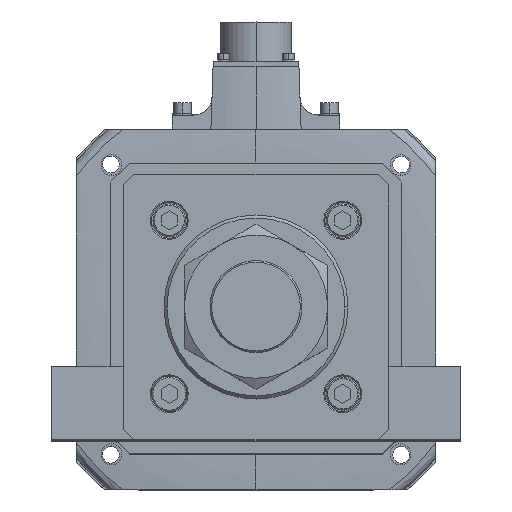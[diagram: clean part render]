
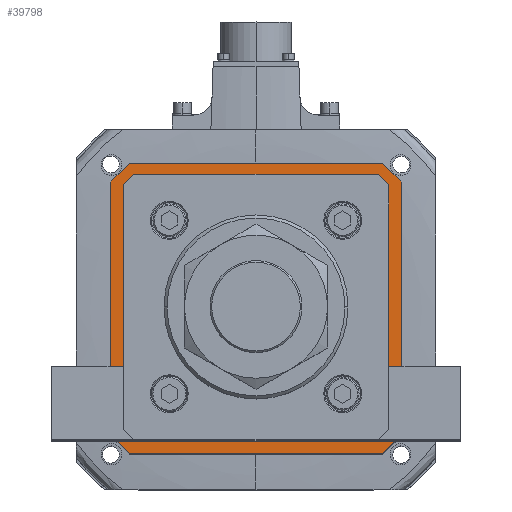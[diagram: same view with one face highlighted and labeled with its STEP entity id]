
A CAD part, top view. The second image highlights one B-rep face of the part: STEP entity #39798.
In plain terms, the highlighted planar face has unit normal (0, 0, 1).
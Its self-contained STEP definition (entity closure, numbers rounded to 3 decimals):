
#1254 = LINE ( 'NONE', #19892, #17965 ) ;
#2408 = EDGE_CURVE ( 'NONE', #38904, #3585, #27895, .T. ) ;
#2716 = VERTEX_POINT ( 'NONE', #4660 ) ;
#2806 = LINE ( 'NONE', #12912, #33525 ) ;
#2861 = ORIENTED_EDGE ( 'NONE', *, *, #2408, .F. ) ;
#3007 = VECTOR ( 'NONE', #44918, 1000. ) ;
#3055 = VERTEX_POINT ( 'NONE', #29881 ) ;
#3069 = DIRECTION ( 'NONE',  ( 0., -1., 0. ) ) ;
#3585 = VERTEX_POINT ( 'NONE', #34812 ) ;
#3739 = VERTEX_POINT ( 'NONE', #32338 ) ;
#4301 = VERTEX_POINT ( 'NONE', #16769 ) ;
#4510 = VECTOR ( 'NONE', #35580, 1000. ) ;
#4660 = CARTESIAN_POINT ( 'NONE',  ( -63., 58.793, -142. ) ) ;
#5102 = LINE ( 'NONE', #23473, #51852 ) ;
#5230 = ORIENTED_EDGE ( 'NONE', *, *, #44930, .F. ) ;
#5682 = LINE ( 'NONE', #14910, #3007 ) ;
#6749 = CARTESIAN_POINT ( 'NONE',  ( 0., 0., -142. ) ) ;
#6956 = CARTESIAN_POINT ( 'NONE',  ( 62., -71., -142. ) ) ;
#7081 = CARTESIAN_POINT ( 'NONE',  ( -62., 71., -142. ) ) ;
#7243 = CARTESIAN_POINT ( 'NONE',  ( 62., -71., -142. ) ) ;
#7448 = EDGE_CURVE ( 'NONE', #25381, #19169, #1254, .T. ) ;
#7671 = ORIENTED_EDGE ( 'NONE', *, *, #9470, .T. ) ;
#8519 = VECTOR ( 'NONE', #36508, 1000. ) ;
#9470 = EDGE_CURVE ( 'NONE', #3055, #39816, #19126, .T. ) ;
#10632 = VERTEX_POINT ( 'NONE', #14787 ) ;
#10765 = VECTOR ( 'NONE', #33969, 1000. ) ;
#11247 = PLANE ( 'NONE',  #41649 ) ;
#11968 = VECTOR ( 'NONE', #41768, 1000. ) ;
#12912 = CARTESIAN_POINT ( 'NONE',  ( -63., 0., -142. ) ) ;
#13697 = VERTEX_POINT ( 'NONE', #7081 ) ;
#13767 = VECTOR ( 'NONE', #22675, 1000. ) ;
#14787 = CARTESIAN_POINT ( 'NONE',  ( 62., 71., -142. ) ) ;
#14800 = CARTESIAN_POINT ( 'NONE',  ( 58.793, -63., -142. ) ) ;
#14910 = CARTESIAN_POINT ( 'NONE',  ( -62., 71., -142. ) ) ;
#15061 = LINE ( 'NONE', #39853, #23688 ) ;
#15078 = ORIENTED_EDGE ( 'NONE', *, *, #48703, .F. ) ;
#15135 = DIRECTION ( 'NONE',  ( 0., 1., 0. ) ) ;
#15359 = DIRECTION ( 'NONE',  ( 0., 0., 1. ) ) ;
#15437 = ORIENTED_EDGE ( 'NONE', *, *, #7448, .T. ) ;
#15617 = LINE ( 'NONE', #47141, #35004 ) ;
#15788 = CARTESIAN_POINT ( 'NONE',  ( 71., -62., -142. ) ) ;
#16203 = ORIENTED_EDGE ( 'NONE', *, *, #37807, .T. ) ;
#16769 = CARTESIAN_POINT ( 'NONE',  ( -58.793, 63., -142. ) ) ;
#16784 = FACE_BOUND ( 'NONE', #29510, .T. ) ;
#16900 = ORIENTED_EDGE ( 'NONE', *, *, #32967, .F. ) ;
#17514 = EDGE_CURVE ( 'NONE', #40955, #32206, #51794, .T. ) ;
#17965 = VECTOR ( 'NONE', #24193, 1000. ) ;
#18042 = ORIENTED_EDGE ( 'NONE', *, *, #50678, .T. ) ;
#18417 = CARTESIAN_POINT ( 'NONE',  ( 60.896, 60.896, -142. ) ) ;
#18450 = CARTESIAN_POINT ( 'NONE',  ( -62., -71., -142. ) ) ;
#18598 = LINE ( 'NONE', #7243, #11968 ) ;
#18990 = ORIENTED_EDGE ( 'NONE', *, *, #50269, .F. ) ;
#19012 = CARTESIAN_POINT ( 'NONE',  ( -63., -58.793, -142. ) ) ;
#19126 = LINE ( 'NONE', #35054, #8519 ) ;
#19169 = VERTEX_POINT ( 'NONE', #19012 ) ;
#19202 = CARTESIAN_POINT ( 'NONE',  ( 63., 58.793, -142. ) ) ;
#19435 = FACE_OUTER_BOUND ( 'NONE', #46936, .T. ) ;
#19892 = CARTESIAN_POINT ( 'NONE',  ( -60.896, -60.896, -142. ) ) ;
#20415 = VERTEX_POINT ( 'NONE', #6956 ) ;
#20627 = LINE ( 'NONE', #53620, #47363 ) ;
#21918 = DIRECTION ( 'NONE',  ( -1., 0., 0. ) ) ;
#22675 = DIRECTION ( 'NONE',  ( 0.707, -0.707, 0. ) ) ;
#23473 = CARTESIAN_POINT ( 'NONE',  ( -71., 62., -142. ) ) ;
#23688 = VECTOR ( 'NONE', #40019, 1000. ) ;
#23907 = DIRECTION ( 'NONE',  ( 1., 0., 0. ) ) ;
#24193 = DIRECTION ( 'NONE',  ( -0.707, 0.707, 0. ) ) ;
#24894 = ORIENTED_EDGE ( 'NONE', *, *, #46066, .F. ) ;
#25180 = EDGE_CURVE ( 'NONE', #32206, #3055, #48345, .T. ) ;
#25351 = ORIENTED_EDGE ( 'NONE', *, *, #36174, .T. ) ;
#25381 = VERTEX_POINT ( 'NONE', #49258 ) ;
#27199 = VECTOR ( 'NONE', #52551, 1000. ) ;
#27572 = CARTESIAN_POINT ( 'NONE',  ( 71., -62., -142. ) ) ;
#27895 = LINE ( 'NONE', #34343, #4510 ) ;
#28241 = CARTESIAN_POINT ( 'NONE',  ( 71., 62., -142. ) ) ;
#28641 = EDGE_CURVE ( 'NONE', #13697, #10632, #41419, .T. ) ;
#29268 = ORIENTED_EDGE ( 'NONE', *, *, #49862, .T. ) ;
#29510 = EDGE_LOOP ( 'NONE', ( #44142, #7671, #16203, #15437, #25351, #18042, #29268, #48313 ) ) ;
#29881 = CARTESIAN_POINT ( 'NONE',  ( 63., -58.793, -142. ) ) ;
#30078 = ORIENTED_EDGE ( 'NONE', *, *, #28641, .F. ) ;
#30590 = DIRECTION ( 'NONE',  ( 0., -1., 0. ) ) ;
#32206 = VERTEX_POINT ( 'NONE', #19202 ) ;
#32338 = CARTESIAN_POINT ( 'NONE',  ( -71., 62., -142. ) ) ;
#32593 = LINE ( 'NONE', #52366, #27199 ) ;
#32967 = EDGE_CURVE ( 'NONE', #3585, #3739, #5102, .T. ) ;
#33525 = VECTOR ( 'NONE', #42716, 1000. ) ;
#33969 = DIRECTION ( 'NONE',  ( 1., 0., 0. ) ) ;
#34149 = VECTOR ( 'NONE', #39759, 1000. ) ;
#34343 = CARTESIAN_POINT ( 'NONE',  ( -62., -71., -142. ) ) ;
#34812 = CARTESIAN_POINT ( 'NONE',  ( -71., -62., -142. ) ) ;
#34915 = VERTEX_POINT ( 'NONE', #42158 ) ;
#35004 = VECTOR ( 'NONE', #21918, 1000. ) ;
#35054 = CARTESIAN_POINT ( 'NONE',  ( 60.896, -60.896, -142. ) ) ;
#35073 = CARTESIAN_POINT ( 'NONE',  ( 63., 0., -142. ) ) ;
#35580 = DIRECTION ( 'NONE',  ( -0.707, 0.707, 0. ) ) ;
#36174 = EDGE_CURVE ( 'NONE', #19169, #2716, #2806, .T. ) ;
#36508 = DIRECTION ( 'NONE',  ( -0.707, -0.707, 0. ) ) ;
#36697 = LINE ( 'NONE', #28241, #52721 ) ;
#37807 = EDGE_CURVE ( 'NONE', #39816, #25381, #15617, .T. ) ;
#38617 = CARTESIAN_POINT ( 'NONE',  ( 62., 71., -142. ) ) ;
#38904 = VERTEX_POINT ( 'NONE', #18450 ) ;
#39759 = DIRECTION ( 'NONE',  ( -0.707, -0.707, 0. ) ) ;
#39798 = ADVANCED_FACE ( 'NONE', ( #16784, #19435 ), #11247, .T. ) ;
#39816 = VERTEX_POINT ( 'NONE', #14800 ) ;
#39853 = CARTESIAN_POINT ( 'NONE',  ( 71., 62., -142. ) ) ;
#40019 = DIRECTION ( 'NONE',  ( 0.707, -0.707, 0. ) ) ;
#40955 = VERTEX_POINT ( 'NONE', #49772 ) ;
#41419 = LINE ( 'NONE', #38617, #10765 ) ;
#41638 = EDGE_CURVE ( 'NONE', #34915, #43471, #36697, .T. ) ;
#41649 = AXIS2_PLACEMENT_3D ( 'NONE', #6749, #15359, #23907 ) ;
#41768 = DIRECTION ( 'NONE',  ( -1., 0., 0. ) ) ;
#42158 = CARTESIAN_POINT ( 'NONE',  ( 71., 62., -142. ) ) ;
#42716 = DIRECTION ( 'NONE',  ( 0., 1., 0. ) ) ;
#43058 = VECTOR ( 'NONE', #30590, 1000. ) ;
#43471 = VERTEX_POINT ( 'NONE', #15788 ) ;
#44142 = ORIENTED_EDGE ( 'NONE', *, *, #25180, .T. ) ;
#44918 = DIRECTION ( 'NONE',  ( 0.707, 0.707, 0. ) ) ;
#44930 = EDGE_CURVE ( 'NONE', #3739, #13697, #5682, .T. ) ;
#46066 = EDGE_CURVE ( 'NONE', #10632, #34915, #15061, .T. ) ;
#46842 = DIRECTION ( 'NONE',  ( 1., 0., 0. ) ) ;
#46936 = EDGE_LOOP ( 'NONE', ( #30078, #5230, #16900, #2861, #18990, #15078, #52881, #24894 ) ) ;
#47141 = CARTESIAN_POINT ( 'NONE',  ( 0., -63., -142. ) ) ;
#47363 = VECTOR ( 'NONE', #46842, 1000. ) ;
#48313 = ORIENTED_EDGE ( 'NONE', *, *, #17514, .T. ) ;
#48345 = LINE ( 'NONE', #35073, #43058 ) ;
#48703 = EDGE_CURVE ( 'NONE', #43471, #20415, #50816, .T. ) ;
#49258 = CARTESIAN_POINT ( 'NONE',  ( -58.793, -63., -142. ) ) ;
#49772 = CARTESIAN_POINT ( 'NONE',  ( 58.793, 63., -142. ) ) ;
#49862 = EDGE_CURVE ( 'NONE', #4301, #40955, #20627, .T. ) ;
#50269 = EDGE_CURVE ( 'NONE', #20415, #38904, #18598, .T. ) ;
#50678 = EDGE_CURVE ( 'NONE', #2716, #4301, #32593, .T. ) ;
#50816 = LINE ( 'NONE', #27572, #34149 ) ;
#51794 = LINE ( 'NONE', #18417, #13767 ) ;
#51852 = VECTOR ( 'NONE', #15135, 1000. ) ;
#52366 = CARTESIAN_POINT ( 'NONE',  ( -60.896, 60.896, -142. ) ) ;
#52551 = DIRECTION ( 'NONE',  ( 0.707, 0.707, 0. ) ) ;
#52721 = VECTOR ( 'NONE', #3069, 1000. ) ;
#52881 = ORIENTED_EDGE ( 'NONE', *, *, #41638, .F. ) ;
#53620 = CARTESIAN_POINT ( 'NONE',  ( 0., 63., -142. ) ) ;
